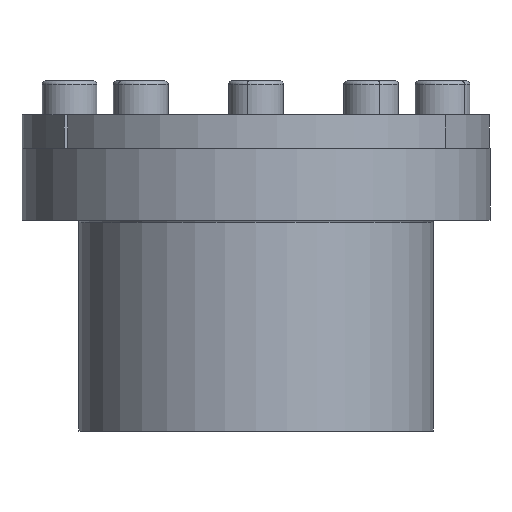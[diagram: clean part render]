
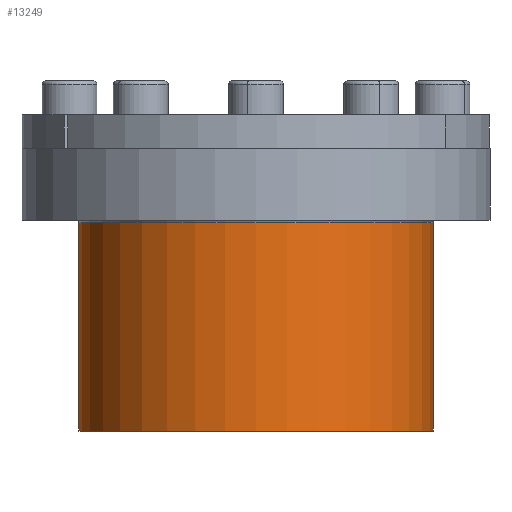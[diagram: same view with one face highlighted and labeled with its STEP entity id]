
A CAD part, front view. The second image highlights one B-rep face of the part: STEP entity #13249.
In plain terms, the highlighted cylindrical face has radius 42 mm (diameter 84 mm), a partial arc.
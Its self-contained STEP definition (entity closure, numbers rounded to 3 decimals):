
#636 = CARTESIAN_POINT ( 'NONE',  ( 0., 0., -11. ) ) ;
#681 = VERTEX_POINT ( 'NONE', #9894 ) ;
#798 = AXIS2_PLACEMENT_3D ( 'NONE', #636, #15164, #9174 ) ;
#1852 = DIRECTION ( 'NONE',  ( 0., 0., -1. ) ) ;
#2262 = DIRECTION ( 'NONE',  ( 0., 0., -1. ) ) ;
#2578 = AXIS2_PLACEMENT_3D ( 'NONE', #9517, #2262, #10727 ) ;
#3500 = ORIENTED_EDGE ( 'NONE', *, *, #10489, .T. ) ;
#3876 = VERTEX_POINT ( 'NONE', #11293 ) ;
#4399 = LINE ( 'NONE', #9878, #13675 ) ;
#4769 = EDGE_LOOP ( 'NONE', ( #10644, #3500, #9981, #10298 ) ) ;
#4822 = CARTESIAN_POINT ( 'NONE',  ( -42., 0., -11. ) ) ;
#6284 = DIRECTION ( 'NONE',  ( 0., 0., -1. ) ) ;
#8045 = VECTOR ( 'NONE', #12050, 1000. ) ;
#8423 = LINE ( 'NONE', #4822, #8045 ) ;
#8471 = CIRCLE ( 'NONE', #15613, 42. ) ;
#8826 = CARTESIAN_POINT ( 'NONE',  ( -42., 0., -61. ) ) ;
#9094 = CARTESIAN_POINT ( 'NONE',  ( 0., 0., -61. ) ) ;
#9174 = DIRECTION ( 'NONE',  ( -1., 0., 0. ) ) ;
#9517 = CARTESIAN_POINT ( 'NONE',  ( 0., 0., -11.6 ) ) ;
#9837 = CIRCLE ( 'NONE', #2578, 42. ) ;
#9878 = CARTESIAN_POINT ( 'NONE',  ( 42., 0., -11. ) ) ;
#9894 = CARTESIAN_POINT ( 'NONE',  ( 42., 0., -61. ) ) ;
#9981 = ORIENTED_EDGE ( 'NONE', *, *, #11490, .T. ) ;
#10076 = FACE_OUTER_BOUND ( 'NONE', #4769, .T. ) ;
#10298 = ORIENTED_EDGE ( 'NONE', *, *, #15334, .F. ) ;
#10313 = DIRECTION ( 'NONE',  ( -1., 0., 0. ) ) ;
#10489 = EDGE_CURVE ( 'NONE', #3876, #14726, #9837, .T. ) ;
#10644 = ORIENTED_EDGE ( 'NONE', *, *, #12171, .F. ) ;
#10727 = DIRECTION ( 'NONE',  ( -1., 0., 0. ) ) ;
#11293 = CARTESIAN_POINT ( 'NONE',  ( 42., 0., -11.6 ) ) ;
#11490 = EDGE_CURVE ( 'NONE', #14726, #15221, #8423, .T. ) ;
#12050 = DIRECTION ( 'NONE',  ( 0., 0., -1. ) ) ;
#12171 = EDGE_CURVE ( 'NONE', #3876, #681, #4399, .T. ) ;
#13249 = ADVANCED_FACE ( 'NONE', ( #10076 ), #14997, .T. ) ;
#13675 = VECTOR ( 'NONE', #6284, 1000. ) ;
#14726 = VERTEX_POINT ( 'NONE', #15590 ) ;
#14997 = CYLINDRICAL_SURFACE ( 'NONE', #798, 42. ) ;
#15164 = DIRECTION ( 'NONE',  ( 0., 0., -1. ) ) ;
#15221 = VERTEX_POINT ( 'NONE', #8826 ) ;
#15334 = EDGE_CURVE ( 'NONE', #681, #15221, #8471, .T. ) ;
#15590 = CARTESIAN_POINT ( 'NONE',  ( -42., 0., -11.6 ) ) ;
#15613 = AXIS2_PLACEMENT_3D ( 'NONE', #9094, #1852, #10313 ) ;
